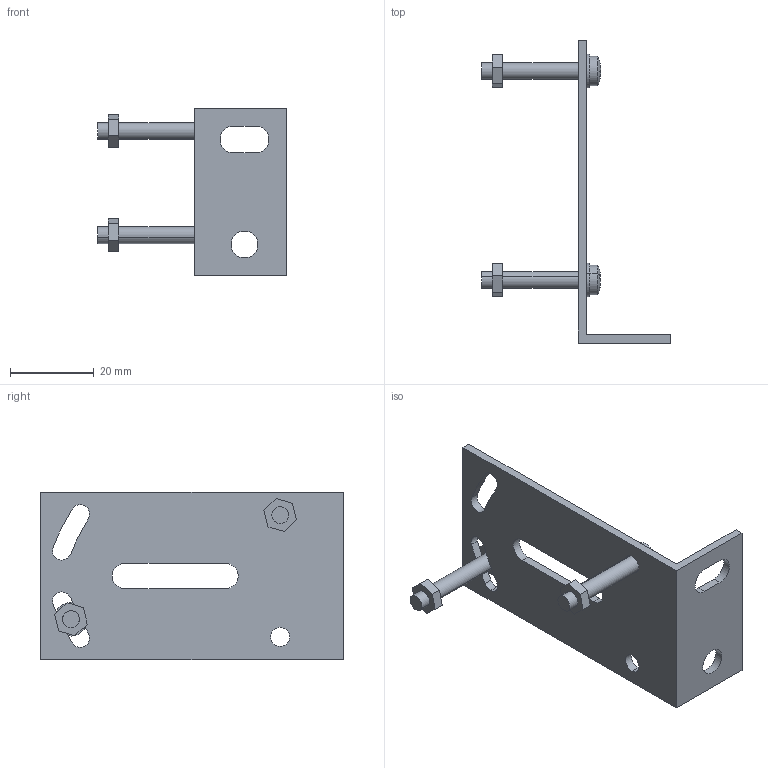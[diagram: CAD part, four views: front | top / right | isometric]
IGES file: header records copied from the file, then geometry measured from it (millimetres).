
Start section: SolidWorks IGES FILE using analytic representation for surfaces
Global section: file name: \\Intra-srv04\開発データ\CAD_Data\CAD委員会\3D電子ｶﾀﾛｸﾞ\製品カタログ（新）\0_IGES\MS-NX5-1.IGS,41HSolidWorks 2004; native system: by SolidWorks Corporation; preprocessor: Version 5.3; author: YK0651; date: 051107.141723; units: millimetre
Bounding box: 45 x 72 x 40 mm (x, y, z)
Volume: 7516.8 mm3; surface area: 8771.5 mm2
Topology: 5 solids, 5 shells, 101 faces, 257 edges, 170 vertices
Faces by surface type: plane 60, revolution 41
